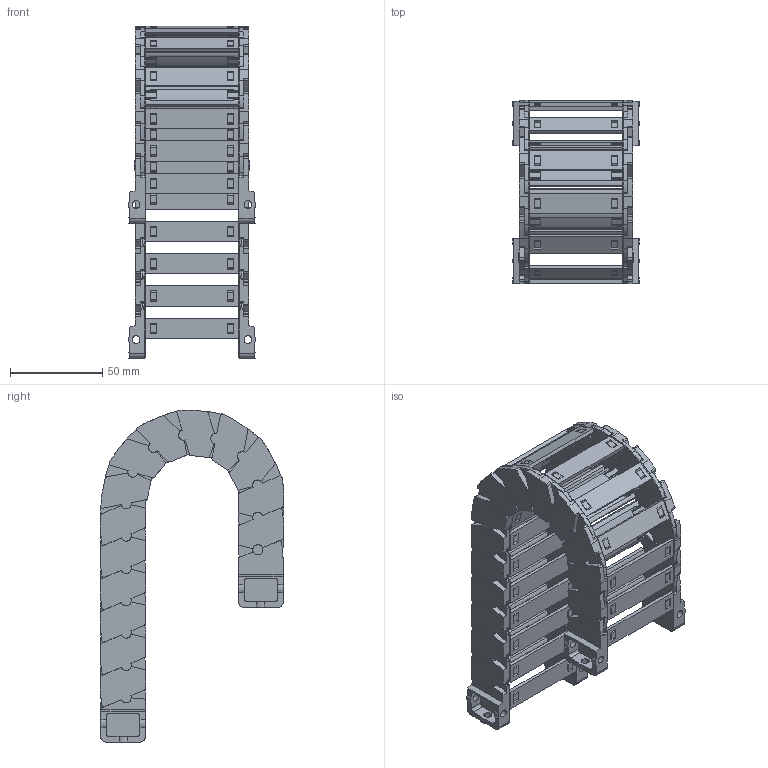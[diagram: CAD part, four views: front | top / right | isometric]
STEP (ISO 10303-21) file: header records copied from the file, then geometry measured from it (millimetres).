
FILE_DESCRIPTION((''),'2;1');
FILE_NAME('JY-18X50-R38_ASM','2022-05-06T08:40:42',('admin'),(''),'CREO PARAMETRIC BY PTC INC, 2021164','CREO PARAMETRIC BY PTC INC, 2021164','');
FILE_SCHEMA(('CONFIG_CONTROL_DESIGN','GEOMETRIC_VALIDATION_PROPERTIES_MIM'));
Length unit declared in the file: millimetre
Products named in the file (11): 18XL-L; 18XL-YP; 18XL-R; ASM0001_ASM; 18-LTT-A-L; 18-LTT-A-R; 18XL-LTT-A_ASM; 18-LTT-B-L; 18-LTT-B-R; 18XL-LTT-B_ASM; JY-18X50-R38_ASM
Assembly tree (28 placements, depth 3):
  JY-18X50-R38_ASM
    ASM0001_ASM  x14
      18XL-L
      18XL-YP
      18XL-R
    18XL-LTT-A_ASM
      18-LTT-A-L
      18XL-YP  x2
      18-LTT-A-R
    18XL-LTT-B_ASM
      18-LTT-B-L
      18XL-YP  x2
      18-LTT-B-R
Bounding box: 68.7 x 99.17 x 179.67 mm (x, y, z)
Volume: 119899.6 mm3; surface area: 116229.3 mm2
Topology: 64 solids, 64 shells, 4372 faces, 12387 edges, 8055 vertices
Faces by surface type: plane 2256, cylinder 1358, bspline 444, torus 268, cone 46
Entity records: 24048 total; most frequent: CARTESIAN_POINT 7279, ORIENTED_EDGE 3438, DIRECTION 3224, EDGE_CURVE 1719, VERTEX_POINT 1125, AXIS2_PLACEMENT_3D 1106, VECTOR 1012, LINE 1012
